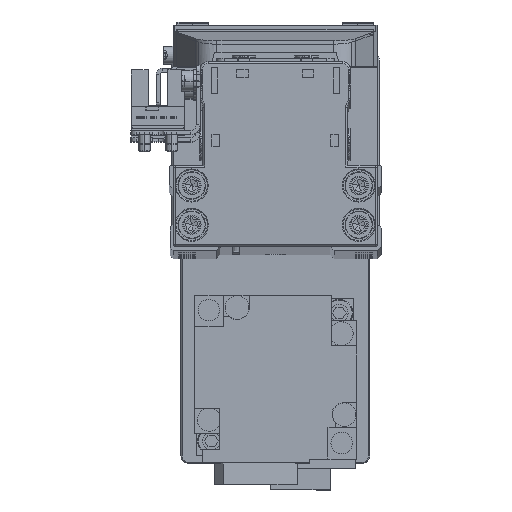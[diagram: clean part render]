
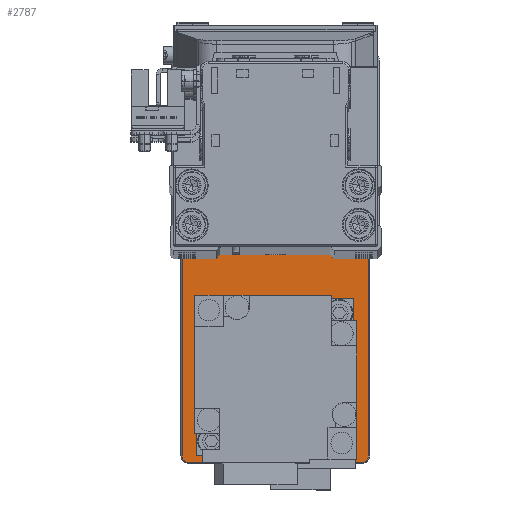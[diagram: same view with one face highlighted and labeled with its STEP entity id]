
A CAD part, top view. The second image highlights one B-rep face of the part: STEP entity #2787.
In plain terms, the highlighted planar face has unit normal (0, 0, 1).
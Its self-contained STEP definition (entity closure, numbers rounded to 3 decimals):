
#245 = AXIS2_PLACEMENT_3D ( 'NONE', #33364, #4891, #17543 ) ;
#511 = VERTEX_POINT ( 'NONE', #28074 ) ;
#695 = FACE_BOUND ( 'NONE', #2518, .T. ) ;
#1186 = ORIENTED_EDGE ( 'NONE', *, *, #6265, .T. ) ;
#2512 = DIRECTION ( 'NONE',  ( 1., 0., 0. ) ) ;
#2518 = EDGE_LOOP ( 'NONE', ( #10962, #20612 ) ) ;
#2787 = ADVANCED_FACE ( 'NONE', ( #29129, #695, #13361 ), #26016, .T. ) ;
#3498 = EDGE_CURVE ( 'NONE', #8567, #5257, #24076, .T. ) ;
#4119 = DIRECTION ( 'NONE',  ( 0., 0., -1. ) ) ;
#4722 = EDGE_CURVE ( 'NONE', #5257, #33737, #37744, .T. ) ;
#4891 = DIRECTION ( 'NONE',  ( 0., 0., -1. ) ) ;
#4955 = VECTOR ( 'NONE', #37368, 1000. ) ;
#5198 = DIRECTION ( 'NONE',  ( 0., 1., 0. ) ) ;
#5257 = VERTEX_POINT ( 'NONE', #39026 ) ;
#6265 = EDGE_CURVE ( 'NONE', #39945, #14586, #10165, .T. ) ;
#6480 = DIRECTION ( 'NONE',  ( 0., 0., 1. ) ) ;
#6858 = VECTOR ( 'NONE', #9958, 1000. ) ;
#7098 = CARTESIAN_POINT ( 'NONE',  ( -50., 23.7, 5. ) ) ;
#7461 = DIRECTION ( 'NONE',  ( 0., 0., -1. ) ) ;
#7975 = DIRECTION ( 'NONE',  ( 1., 0., 0. ) ) ;
#8567 = VERTEX_POINT ( 'NONE', #19860 ) ;
#9248 = LINE ( 'NONE', #21894, #18872 ) ;
#9496 = VERTEX_POINT ( 'NONE', #15337 ) ;
#9661 = ORIENTED_EDGE ( 'NONE', *, *, #3498, .T. ) ;
#9958 = DIRECTION ( 'NONE',  ( -1., 0., 0. ) ) ;
#9975 = DIRECTION ( 'NONE',  ( 0., 0., 1. ) ) ;
#10165 = CIRCLE ( 'NONE', #33443, 1.7 ) ;
#10260 = DIRECTION ( 'NONE',  ( 0., 0., 1. ) ) ;
#10962 = ORIENTED_EDGE ( 'NONE', *, *, #24704, .T. ) ;
#11301 = ORIENTED_EDGE ( 'NONE', *, *, #24039, .T. ) ;
#11442 = EDGE_LOOP ( 'NONE', ( #11301, #25803, #9661, #37324, #19314, #1186, #14213, #19086 ) ) ;
#12000 = LINE ( 'NONE', #24662, #4955 ) ;
#12150 = CIRCLE ( 'NONE', #35383, 1.7 ) ;
#12481 = DIRECTION ( 'NONE',  ( 1., 0., 0. ) ) ;
#12917 = AXIS2_PLACEMENT_3D ( 'NONE', #23761, #36450, #7975 ) ;
#13094 = EDGE_CURVE ( 'NONE', #33737, #39945, #25741, .T. ) ;
#13164 = VERTEX_POINT ( 'NONE', #38861 ) ;
#13361 = FACE_OUTER_BOUND ( 'NONE', #11442, .T. ) ;
#14213 = ORIENTED_EDGE ( 'NONE', *, *, #24531, .T. ) ;
#14586 = VERTEX_POINT ( 'NONE', #36573 ) ;
#14905 = ORIENTED_EDGE ( 'NONE', *, *, #37475, .T. ) ;
#15083 = VERTEX_POINT ( 'NONE', #20505 ) ;
#15337 = CARTESIAN_POINT ( 'NONE',  ( -50., -23.7, 5. ) ) ;
#15410 = VECTOR ( 'NONE', #5198, 1000. ) ;
#15754 = ORIENTED_EDGE ( 'NONE', *, *, #30381, .T. ) ;
#15980 = CARTESIAN_POINT ( 'NONE',  ( 50., 23.7, 5. ) ) ;
#16772 = DIRECTION ( 'NONE',  ( 1., 0., 0. ) ) ;
#17543 = DIRECTION ( 'NONE',  ( 1., 0., 0. ) ) ;
#17708 = CARTESIAN_POINT ( 'NONE',  ( -51.7, -22., 5. ) ) ;
#18287 = CARTESIAN_POINT ( 'NONE',  ( -50., 22., 5. ) ) ;
#18872 = VECTOR ( 'NONE', #34610, 1000. ) ;
#19086 = ORIENTED_EDGE ( 'NONE', *, *, #21994, .T. ) ;
#19122 = DIRECTION ( 'NONE',  ( 1., 0., 0. ) ) ;
#19176 = EDGE_CURVE ( 'NONE', #511, #13164, #30323, .T. ) ;
#19314 = ORIENTED_EDGE ( 'NONE', *, *, #13094, .T. ) ;
#19860 = CARTESIAN_POINT ( 'NONE',  ( 51.7, -22., 5. ) ) ;
#20118 = DIRECTION ( 'NONE',  ( 1., 0., 0. ) ) ;
#20505 = CARTESIAN_POINT ( 'NONE',  ( 42.8, 0., 5. ) ) ;
#20612 = ORIENTED_EDGE ( 'NONE', *, *, #19176, .T. ) ;
#20729 = AXIS2_PLACEMENT_3D ( 'NONE', #32598, #4119, #16772 ) ;
#21894 = CARTESIAN_POINT ( 'NONE',  ( -51.7, -22., 5. ) ) ;
#21994 = EDGE_CURVE ( 'NONE', #33537, #9496, #40741, .T. ) ;
#22637 = DIRECTION ( 'NONE',  ( 1., 0., 0. ) ) ;
#22793 = AXIS2_PLACEMENT_3D ( 'NONE', #28268, #40965, #12481 ) ;
#22916 = DIRECTION ( 'NONE',  ( 1., 0., 0. ) ) ;
#23761 = CARTESIAN_POINT ( 'NONE',  ( -28., 0., 5. ) ) ;
#24039 = EDGE_CURVE ( 'NONE', #9496, #31549, #12000, .T. ) ;
#24076 = LINE ( 'NONE', #33675, #15410 ) ;
#24531 = EDGE_CURVE ( 'NONE', #14586, #33537, #9248, .T. ) ;
#24625 = CARTESIAN_POINT ( 'NONE',  ( 50., -23.7, 5. ) ) ;
#24662 = CARTESIAN_POINT ( 'NONE',  ( 50., -23.7, 5. ) ) ;
#24704 = EDGE_CURVE ( 'NONE', #13164, #511, #30871, .T. ) ;
#25741 = LINE ( 'NONE', #38440, #6858 ) ;
#25803 = ORIENTED_EDGE ( 'NONE', *, *, #39812, .T. ) ;
#26016 = PLANE ( 'NONE',  #37859 ) ;
#28074 = CARTESIAN_POINT ( 'NONE',  ( -38.3, 0., 5. ) ) ;
#28268 = CARTESIAN_POINT ( 'NONE',  ( -50., -22., 5. ) ) ;
#29129 = FACE_BOUND ( 'NONE', #34816, .T. ) ;
#30323 = CIRCLE ( 'NONE', #35643, 10.3 ) ;
#30381 = EDGE_CURVE ( 'NONE', #30891, #15083, #36100, .T. ) ;
#30871 = CIRCLE ( 'NONE', #12917, 10.3 ) ;
#30891 = VERTEX_POINT ( 'NONE', #36151 ) ;
#30984 = DIRECTION ( 'NONE',  ( 0., 0., 1. ) ) ;
#31549 = VERTEX_POINT ( 'NONE', #24625 ) ;
#32598 = CARTESIAN_POINT ( 'NONE',  ( 30., 0., 5. ) ) ;
#33364 = CARTESIAN_POINT ( 'NONE',  ( 30., 0., 5. ) ) ;
#33443 = AXIS2_PLACEMENT_3D ( 'NONE', #18287, #30984, #2512 ) ;
#33537 = VERTEX_POINT ( 'NONE', #17708 ) ;
#33675 = CARTESIAN_POINT ( 'NONE',  ( 51.7, 22., 5. ) ) ;
#33737 = VERTEX_POINT ( 'NONE', #15980 ) ;
#34610 = DIRECTION ( 'NONE',  ( 0., -1., 0. ) ) ;
#34816 = EDGE_LOOP ( 'NONE', ( #14905, #15754 ) ) ;
#34962 = CARTESIAN_POINT ( 'NONE',  ( 50., -22., 5. ) ) ;
#35383 = AXIS2_PLACEMENT_3D ( 'NONE', #34962, #6480, #19122 ) ;
#35643 = AXIS2_PLACEMENT_3D ( 'NONE', #35934, #7461, #20118 ) ;
#35761 = AXIS2_PLACEMENT_3D ( 'NONE', #38454, #9975, #22637 ) ;
#35934 = CARTESIAN_POINT ( 'NONE',  ( -28., 0., 5. ) ) ;
#36100 = CIRCLE ( 'NONE', #245, 12.8 ) ;
#36151 = CARTESIAN_POINT ( 'NONE',  ( 17.2, 0., 5. ) ) ;
#36450 = DIRECTION ( 'NONE',  ( 0., 0., -1. ) ) ;
#36573 = CARTESIAN_POINT ( 'NONE',  ( -51.7, 22., 5. ) ) ;
#37324 = ORIENTED_EDGE ( 'NONE', *, *, #4722, .T. ) ;
#37368 = DIRECTION ( 'NONE',  ( 1., 0., 0. ) ) ;
#37475 = EDGE_CURVE ( 'NONE', #15083, #30891, #38654, .T. ) ;
#37744 = CIRCLE ( 'NONE', #35761, 1.7 ) ;
#37859 = AXIS2_PLACEMENT_3D ( 'NONE', #38731, #10260, #22916 ) ;
#38440 = CARTESIAN_POINT ( 'NONE',  ( -50., 23.7, 5. ) ) ;
#38454 = CARTESIAN_POINT ( 'NONE',  ( 50., 22., 5. ) ) ;
#38654 = CIRCLE ( 'NONE', #20729, 12.8 ) ;
#38731 = CARTESIAN_POINT ( 'NONE',  ( 0., 0., 5. ) ) ;
#38861 = CARTESIAN_POINT ( 'NONE',  ( -17.7, 0., 5. ) ) ;
#39026 = CARTESIAN_POINT ( 'NONE',  ( 51.7, 22., 5. ) ) ;
#39812 = EDGE_CURVE ( 'NONE', #31549, #8567, #12150, .T. ) ;
#39945 = VERTEX_POINT ( 'NONE', #7098 ) ;
#40741 = CIRCLE ( 'NONE', #22793, 1.7 ) ;
#40965 = DIRECTION ( 'NONE',  ( 0., 0., 1. ) ) ;
